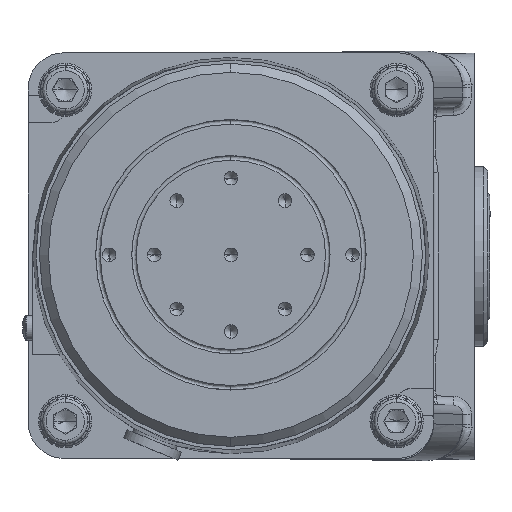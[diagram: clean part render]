
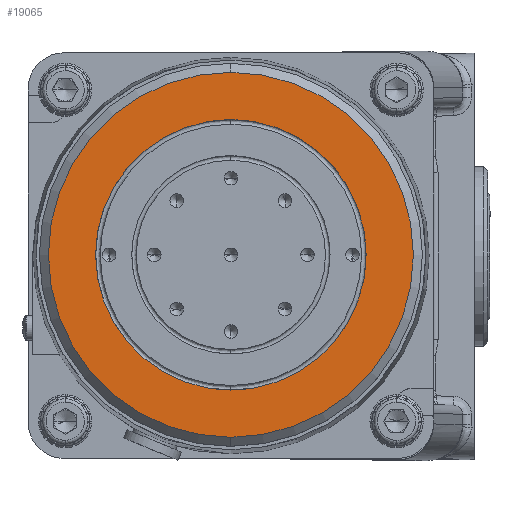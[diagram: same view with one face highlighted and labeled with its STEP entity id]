
A CAD part, top view. The second image highlights one B-rep face of the part: STEP entity #19065.
In plain terms, the highlighted planar face has unit normal (0, 0, 1) as drawn and (-1, 0, 0) by its records, which use the part's own axes.
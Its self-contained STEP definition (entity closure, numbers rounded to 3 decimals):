
#4066 = DIRECTION ( 'NONE',  ( 1., 0., 0. ) ) ;
#4893 = VERTEX_POINT ( 'NONE', #65055 ) ;
#9888 = DIRECTION ( 'NONE',  ( 0., 0., 1. ) ) ;
#10060 = DIRECTION ( 'NONE',  ( -1., 0., 0. ) ) ;
#10155 = PLANE ( 'NONE',  #51549 ) ;
#10173 = CARTESIAN_POINT ( 'NONE',  ( -122.768, 9.172, 213.5 ) ) ;
#10386 = CARTESIAN_POINT ( 'NONE',  ( -122.768, 9.172, 243.5 ) ) ;
#11168 = FACE_BOUND ( 'NONE', #40880, .T. ) ;
#13475 = EDGE_CURVE ( 'NONE', #59862, #40404, #66133, .T. ) ;
#15280 = ORIENTED_EDGE ( 'NONE', *, *, #13475, .F. ) ;
#16621 = DIRECTION ( 'NONE',  ( 0., 0., 1. ) ) ;
#18013 = DIRECTION ( 'NONE',  ( 0., 0., -1. ) ) ;
#18030 = DIRECTION ( 'NONE',  ( 1., 0., 0. ) ) ;
#18123 = CARTESIAN_POINT ( 'NONE',  ( -122.768, 9.172, 243.5 ) ) ;
#19065 = ADVANCED_FACE ( 'NONE', ( #11168, #59898 ), #10155, .T. ) ;
#23565 = CIRCLE ( 'NONE', #65853, 30. ) ;
#23675 = AXIS2_PLACEMENT_3D ( 'NONE', #40977, #4066, #47014 ) ;
#29580 = CIRCLE ( 'NONE', #23675, 40.5 ) ;
#31859 = CARTESIAN_POINT ( 'NONE',  ( -122.768, 9.172, 243.5 ) ) ;
#32827 = AXIS2_PLACEMENT_3D ( 'NONE', #31859, #74281, #38041 ) ;
#38041 = DIRECTION ( 'NONE',  ( 0., 0., 1. ) ) ;
#38165 = EDGE_CURVE ( 'NONE', #78606, #4893, #75585, .T. ) ;
#38653 = ORIENTED_EDGE ( 'NONE', *, *, #61722, .T. ) ;
#39846 = CARTESIAN_POINT ( 'NONE',  ( -122.768, 9.172, 284. ) ) ;
#39971 = EDGE_CURVE ( 'NONE', #40404, #59862, #29580, .T. ) ;
#40404 = VERTEX_POINT ( 'NONE', #39846 ) ;
#40880 = EDGE_LOOP ( 'NONE', ( #38653, #66115 ) ) ;
#40977 = CARTESIAN_POINT ( 'NONE',  ( -122.768, 9.172, 243.5 ) ) ;
#45336 = EDGE_LOOP ( 'NONE', ( #15280, #55301 ) ) ;
#47014 = DIRECTION ( 'NONE',  ( 0., 0., -1. ) ) ;
#51549 = AXIS2_PLACEMENT_3D ( 'NONE', #10173, #10060, #9888 ) ;
#53172 = DIRECTION ( 'NONE',  ( 1., 0., 0. ) ) ;
#55301 = ORIENTED_EDGE ( 'NONE', *, *, #39971, .F. ) ;
#59862 = VERTEX_POINT ( 'NONE', #78524 ) ;
#59898 = FACE_OUTER_BOUND ( 'NONE', #45336, .T. ) ;
#61722 = EDGE_CURVE ( 'NONE', #4893, #78606, #23565, .T. ) ;
#65055 = CARTESIAN_POINT ( 'NONE',  ( -122.768, 9.172, 273.5 ) ) ;
#65853 = AXIS2_PLACEMENT_3D ( 'NONE', #10386, #53172, #16621 ) ;
#66115 = ORIENTED_EDGE ( 'NONE', *, *, #38165, .T. ) ;
#66133 = CIRCLE ( 'NONE', #68701, 40.5 ) ;
#68701 = AXIS2_PLACEMENT_3D ( 'NONE', #18123, #18030, #18013 ) ;
#74281 = DIRECTION ( 'NONE',  ( 1., 0., 0. ) ) ;
#75585 = CIRCLE ( 'NONE', #32827, 30. ) ;
#78524 = CARTESIAN_POINT ( 'NONE',  ( -122.768, 9.172, 203. ) ) ;
#78606 = VERTEX_POINT ( 'NONE', #78610 ) ;
#78610 = CARTESIAN_POINT ( 'NONE',  ( -122.768, 9.172, 213.5 ) ) ;
